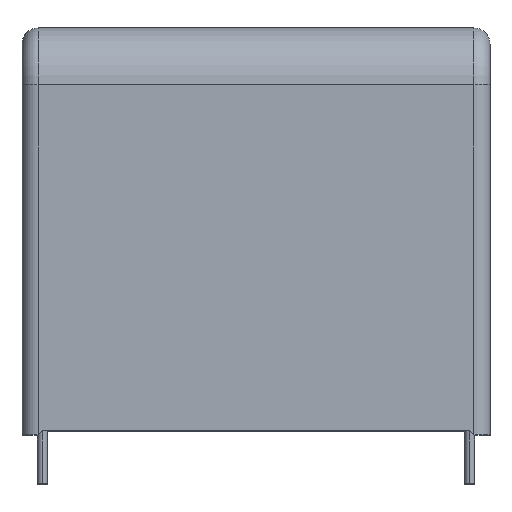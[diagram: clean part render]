
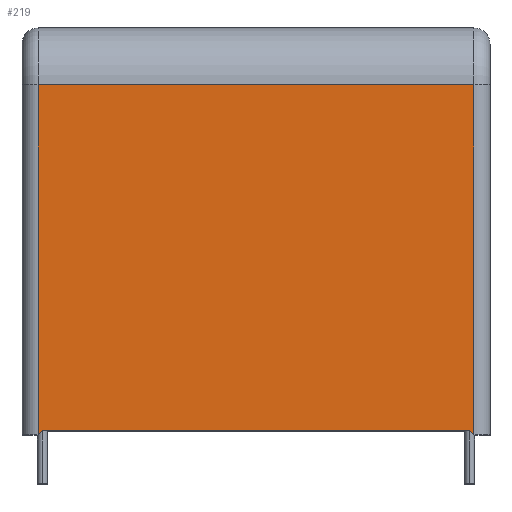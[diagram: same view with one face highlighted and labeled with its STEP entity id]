
A CAD part, top view. The second image highlights one B-rep face of the part: STEP entity #219.
In plain terms, the highlighted planar face has unit normal (0, 0, 1).
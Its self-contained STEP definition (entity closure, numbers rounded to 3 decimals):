
#16 = AXIS2_PLACEMENT_3D ( 'NONE', #3652, #3253, #3234 ) ;
#39 = LINE ( 'NONE', #3398, #1380 ) ;
#219 = ADVANCED_FACE ( 'NONE', ( #456 ), #2519, .F. ) ;
#316 = DIRECTION ( 'NONE',  ( -0.707, -0.707, 0. ) ) ;
#345 = CARTESIAN_POINT ( 'NONE',  ( -26.75, 0., 17.5 ) ) ;
#361 = EDGE_CURVE ( 'NONE', #2219, #2661, #2846, .T. ) ;
#456 = FACE_OUTER_BOUND ( 'NONE', #1964, .T. ) ;
#631 = CARTESIAN_POINT ( 'NONE',  ( -28.75, 43., 17.5 ) ) ;
#679 = LINE ( 'NONE', #4249, #1194 ) ;
#786 = CARTESIAN_POINT ( 'NONE',  ( -26.25, 0.5, 17.5 ) ) ;
#1106 = VECTOR ( 'NONE', #2729, 1000. ) ;
#1194 = VECTOR ( 'NONE', #2572, 1000. ) ;
#1375 = VECTOR ( 'NONE', #1772, 1000. ) ;
#1380 = VECTOR ( 'NONE', #1497, 1000. ) ;
#1497 = DIRECTION ( 'NONE',  ( 0., 1., 0. ) ) ;
#1666 = CARTESIAN_POINT ( 'NONE',  ( -26.75, 43., 17.5 ) ) ;
#1772 = DIRECTION ( 'NONE',  ( -1., 0., 0. ) ) ;
#1821 = LINE ( 'NONE', #631, #1375 ) ;
#1833 = EDGE_CURVE ( 'NONE', #2595, #2653, #1821, .T. ) ;
#1964 = EDGE_LOOP ( 'NONE', ( #3611, #3644, #3648, #3670, #3675, #3725 ) ) ;
#2037 = EDGE_CURVE ( 'NONE', #2232, #2595, #39, .T. ) ;
#2181 = CARTESIAN_POINT ( 'NONE',  ( 26.75, 0., 17.5 ) ) ;
#2219 = VERTEX_POINT ( 'NONE', #2855 ) ;
#2232 = VERTEX_POINT ( 'NONE', #2181 ) ;
#2282 = VERTEX_POINT ( 'NONE', #2560 ) ;
#2289 = EDGE_CURVE ( 'NONE', #2232, #2282, #679, .T. ) ;
#2302 = LINE ( 'NONE', #786, #2932 ) ;
#2519 = PLANE ( 'NONE',  #16 ) ;
#2534 = EDGE_CURVE ( 'NONE', #2282, #2219, #2302, .T. ) ;
#2560 = CARTESIAN_POINT ( 'NONE',  ( 26.25, 0.5, 17.5 ) ) ;
#2572 = DIRECTION ( 'NONE',  ( -0.707, 0.707, 0. ) ) ;
#2595 = VERTEX_POINT ( 'NONE', #3553 ) ;
#2653 = VERTEX_POINT ( 'NONE', #1666 ) ;
#2661 = VERTEX_POINT ( 'NONE', #3006 ) ;
#2729 = DIRECTION ( 'NONE',  ( 0., -1., 0. ) ) ;
#2758 = EDGE_CURVE ( 'NONE', #2653, #2661, #4345, .T. ) ;
#2846 = LINE ( 'NONE', #345, #3138 ) ;
#2855 = CARTESIAN_POINT ( 'NONE',  ( -26.25, 0.5, 17.5 ) ) ;
#2932 = VECTOR ( 'NONE', #4067, 1000. ) ;
#3006 = CARTESIAN_POINT ( 'NONE',  ( -26.75, 0., 17.5 ) ) ;
#3138 = VECTOR ( 'NONE', #316, 1000. ) ;
#3234 = DIRECTION ( 'NONE',  ( -1., 0., 0. ) ) ;
#3253 = DIRECTION ( 'NONE',  ( 0., 0., -1. ) ) ;
#3398 = CARTESIAN_POINT ( 'NONE',  ( 26.75, 50., 17.5 ) ) ;
#3553 = CARTESIAN_POINT ( 'NONE',  ( 26.75, 43., 17.5 ) ) ;
#3611 = ORIENTED_EDGE ( 'NONE', *, *, #2534, .F. ) ;
#3644 = ORIENTED_EDGE ( 'NONE', *, *, #2289, .F. ) ;
#3648 = ORIENTED_EDGE ( 'NONE', *, *, #2037, .T. ) ;
#3652 = CARTESIAN_POINT ( 'NONE',  ( -28.75, 50., 17.5 ) ) ;
#3670 = ORIENTED_EDGE ( 'NONE', *, *, #1833, .T. ) ;
#3675 = ORIENTED_EDGE ( 'NONE', *, *, #2758, .T. ) ;
#3725 = ORIENTED_EDGE ( 'NONE', *, *, #361, .F. ) ;
#4067 = DIRECTION ( 'NONE',  ( -1., 0., 0. ) ) ;
#4129 = CARTESIAN_POINT ( 'NONE',  ( -26.75, 50., 17.5 ) ) ;
#4249 = CARTESIAN_POINT ( 'NONE',  ( 26.25, 0.5, 17.5 ) ) ;
#4345 = LINE ( 'NONE', #4129, #1106 ) ;
